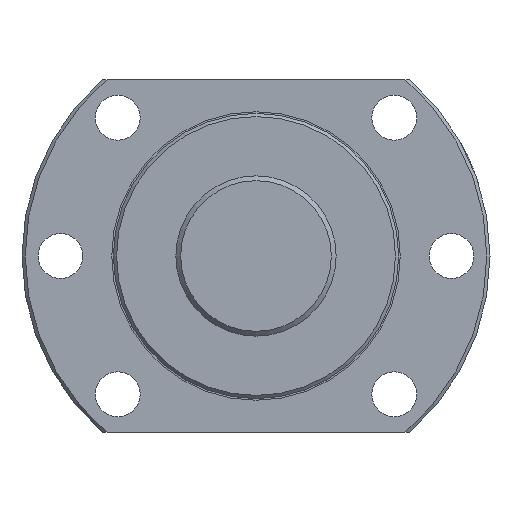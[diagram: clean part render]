
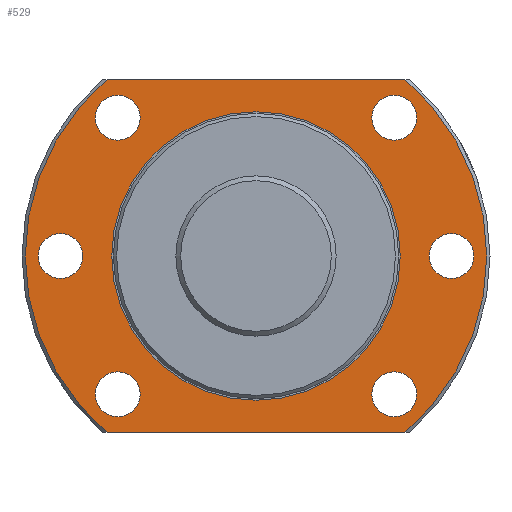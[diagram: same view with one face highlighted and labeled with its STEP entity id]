
A CAD part, left-side view. The second image highlights one B-rep face of the part: STEP entity #529.
In plain terms, the highlighted planar face has unit normal (-1, 0, 0).
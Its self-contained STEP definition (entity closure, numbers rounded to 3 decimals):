
#34=LINE('',#964,#42);
#35=LINE('',#965,#43);
#42=VECTOR('',#767,1000.);
#43=VECTOR('',#768,1000.);
#146=ORIENTED_EDGE('',*,*,#240,.T.);
#147=ORIENTED_EDGE('',*,*,#241,.T.);
#148=ORIENTED_EDGE('',*,*,#242,.F.);
#149=ORIENTED_EDGE('',*,*,#214,.F.);
#150=ORIENTED_EDGE('',*,*,#243,.F.);
#151=ORIENTED_EDGE('',*,*,#238,.F.);
#152=ORIENTED_EDGE('',*,*,#244,.T.);
#153=ORIENTED_EDGE('',*,*,#245,.T.);
#154=ORIENTED_EDGE('',*,*,#246,.T.);
#155=ORIENTED_EDGE('',*,*,#247,.T.);
#156=ORIENTED_EDGE('',*,*,#248,.T.);
#214=EDGE_CURVE('',#269,#268,#312,.T.);
#238=EDGE_CURVE('',#289,#290,#331,.T.);
#240=EDGE_CURVE('',#291,#291,#332,.T.);
#241=EDGE_CURVE('',#292,#292,#333,.F.);
#242=EDGE_CURVE('',#268,#289,#34,.T.);
#243=EDGE_CURVE('',#290,#269,#35,.T.);
#244=EDGE_CURVE('',#293,#293,#334,.T.);
#245=EDGE_CURVE('',#294,#294,#335,.T.);
#246=EDGE_CURVE('',#295,#295,#336,.T.);
#247=EDGE_CURVE('',#296,#296,#337,.T.);
#248=EDGE_CURVE('',#297,#297,#338,.T.);
#268=VERTEX_POINT('',#881);
#269=VERTEX_POINT('',#886);
#289=VERTEX_POINT('',#952);
#290=VERTEX_POINT('',#954);
#291=VERTEX_POINT('',#961);
#292=VERTEX_POINT('',#963);
#293=VERTEX_POINT('',#967);
#294=VERTEX_POINT('',#969);
#295=VERTEX_POINT('',#971);
#296=VERTEX_POINT('',#973);
#297=VERTEX_POINT('',#975);
#312=CIRCLE('',#589,72.);
#331=CIRCLE('',#621,72.);
#332=CIRCLE('',#623,45.);
#333=CIRCLE('',#624,7.);
#334=CIRCLE('',#625,7.);
#335=CIRCLE('',#626,7.);
#336=CIRCLE('',#627,7.);
#337=CIRCLE('',#628,7.);
#338=CIRCLE('',#629,7.);
#386=EDGE_LOOP('',(#146));
#387=EDGE_LOOP('',(#147));
#388=EDGE_LOOP('',(#148,#149,#150,#151));
#389=EDGE_LOOP('',(#152));
#390=EDGE_LOOP('',(#153));
#391=EDGE_LOOP('',(#154));
#392=EDGE_LOOP('',(#155));
#393=EDGE_LOOP('',(#156));
#462=FACE_BOUND('',#386,.T.);
#463=FACE_BOUND('',#387,.T.);
#464=FACE_BOUND('',#388,.T.);
#465=FACE_BOUND('',#389,.T.);
#466=FACE_BOUND('',#390,.T.);
#467=FACE_BOUND('',#391,.T.);
#468=FACE_BOUND('',#392,.T.);
#469=FACE_BOUND('',#393,.T.);
#503=PLANE('',#622);
#529=ADVANCED_FACE('',(#462,#463,#464,#465,#466,#467,#468,#469),#503,.T.);
#589=AXIS2_PLACEMENT_3D('',#887,#693,#694);
#621=AXIS2_PLACEMENT_3D('',#953,#759,#760);
#622=AXIS2_PLACEMENT_3D('',#959,#761,#762);
#623=AXIS2_PLACEMENT_3D('',#960,#763,#764);
#624=AXIS2_PLACEMENT_3D('',#962,#765,#766);
#625=AXIS2_PLACEMENT_3D('',#966,#769,#770);
#626=AXIS2_PLACEMENT_3D('',#968,#771,#772);
#627=AXIS2_PLACEMENT_3D('',#970,#773,#774);
#628=AXIS2_PLACEMENT_3D('',#972,#775,#776);
#629=AXIS2_PLACEMENT_3D('',#974,#777,#778);
#693=DIRECTION('',(1.,0.,0.));
#694=DIRECTION('',(0.,0.,-1.));
#759=DIRECTION('',(1.,0.,0.));
#760=DIRECTION('',(0.,0.,-1.));
#761=DIRECTION('',(-1.,0.,0.));
#762=DIRECTION('',(0.,0.,1.));
#763=DIRECTION('',(1.,0.,0.));
#764=DIRECTION('',(0.,0.,-1.));
#765=DIRECTION('',(-1.,0.,0.));
#766=DIRECTION('',(0.,0.,1.));
#767=DIRECTION('',(0.,1.,0.));
#768=DIRECTION('',(0.,-1.,0.));
#769=DIRECTION('',(1.,0.,0.));
#770=DIRECTION('',(0.,0.,-1.));
#771=DIRECTION('',(1.,0.,0.));
#772=DIRECTION('',(0.,0.,-1.));
#773=DIRECTION('',(1.,0.,0.));
#774=DIRECTION('',(0.,0.,-1.));
#775=DIRECTION('',(1.,0.,0.));
#776=DIRECTION('',(0.,0.,-1.));
#777=DIRECTION('',(1.,0.,0.));
#778=DIRECTION('',(0.,0.,-1.));
#881=CARTESIAN_POINT('',(11.,-46.465,-55.));
#886=CARTESIAN_POINT('',(11.,-46.465,55.));
#887=CARTESIAN_POINT('',(11.,0.,0.));
#952=CARTESIAN_POINT('',(11.,46.465,-55.));
#953=CARTESIAN_POINT('',(11.,0.,0.));
#954=CARTESIAN_POINT('',(11.,46.465,55.));
#959=CARTESIAN_POINT('',(11.,72.,0.));
#960=CARTESIAN_POINT('',(11.,0.,0.));
#961=CARTESIAN_POINT('',(11.,0.,-45.));
#962=CARTESIAN_POINT('',(11.,61.,0.));
#963=CARTESIAN_POINT('',(11.,61.,7.));
#964=CARTESIAN_POINT('',(11.,72.,-55.));
#965=CARTESIAN_POINT('',(11.,72.,55.));
#966=CARTESIAN_POINT('',(11.,43.134,-43.134));
#967=CARTESIAN_POINT('',(11.,43.134,-50.134));
#968=CARTESIAN_POINT('',(11.,-43.134,-43.134));
#969=CARTESIAN_POINT('',(11.,-43.134,-50.134));
#970=CARTESIAN_POINT('',(11.,-61.,0.));
#971=CARTESIAN_POINT('',(11.,-61.,-7.));
#972=CARTESIAN_POINT('',(11.,-43.134,43.134));
#973=CARTESIAN_POINT('',(11.,-43.134,36.134));
#974=CARTESIAN_POINT('',(11.,43.134,43.134));
#975=CARTESIAN_POINT('',(11.,43.134,36.134));
